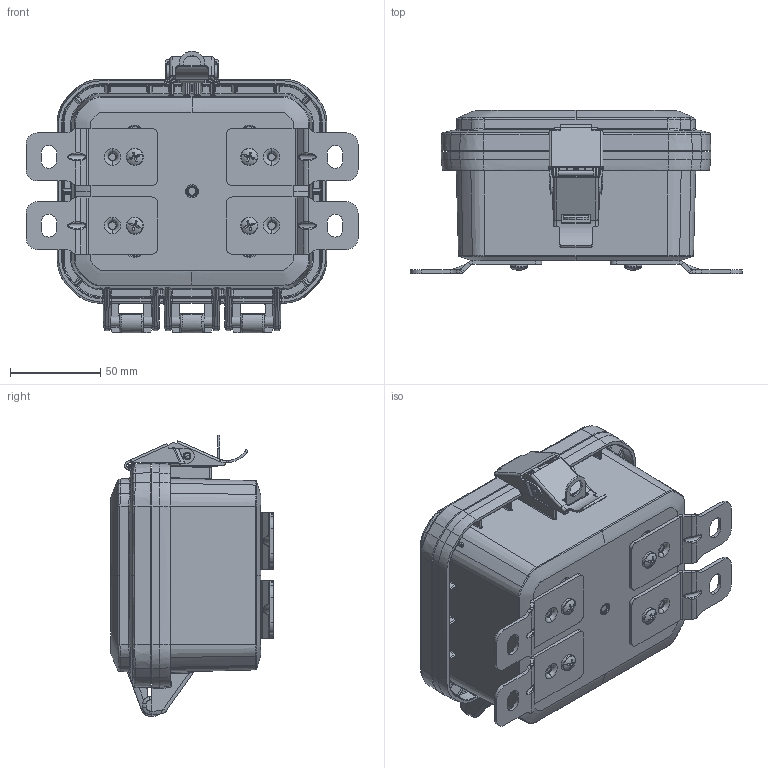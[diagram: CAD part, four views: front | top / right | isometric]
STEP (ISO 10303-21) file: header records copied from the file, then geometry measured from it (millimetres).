
FILE_DESCRIPTION (( 'STEP AP214' ), '1' );
FILE_NAME ('HP-050403-21.STEP', '2024-03-12T17:50:41', ( '' ), ( '' ), 'SwSTEP 2.0', 'SolidWorks 2024', '' );
FILE_SCHEMA (( 'AUTOMOTIVE_DESIGN' ));
Length unit declared in the file: inch
Products named in the file (16): HP-0504G; ZH-01L2; HP-05041CG_HP-05041CG-01; HP-0504xB_HP-05042B-01; ZH-01L4; INSERTS-4; ZH-01L3; ZH-01L5; HP-0504xBI_HP-05042BI-01; LABEL-105; SCREWS-049_SCREWS-049; HP-05041C_HP-05041C-01; HP-050403-21; ZH-91F-01_ZH-91F-01; ZH-01L; ZH-01L1
Assembly tree (24 placements, depth 3):
  HP-050403-21
    HP-0504xBI_HP-05042BI-01
      HP-0504xB_HP-05042B-01
      LABEL-105
      INSERTS-4  x4
    HP-05041CG_HP-05041CG-01
      HP-05041C_HP-05041C-01
      HP-0504G
    ZH-01L
      ZH-01L1
      ZH-01L2
      ZH-01L3
      ZH-01L4
      ZH-01L5
    SCREWS-049_SCREWS-049  x4
    ZH-91F-01_ZH-91F-01  x4
Bounding box: 184.15 x 90.38 x 156.17 mm (x, y, z)
Volume: 318232.2 mm3; surface area: 220575.2 mm2
Topology: 21 solids, 21 shells, 4558 faces, 10871 edges, 6310 vertices
Faces by surface type: bspline 1546, cylinder 1021, plane 997, torus 512, cone 334, sphere 148
Entity records: 173049 total; most frequent: CARTESIAN_POINT 91958, ORIENTED_EDGE 18926, DIRECTION 14526, EDGE_CURVE 9463, AXIS2_PLACEMENT_3D 5988, VERTEX_POINT 5473, EDGE_LOOP 4110, ADVANCED_FACE 4042
